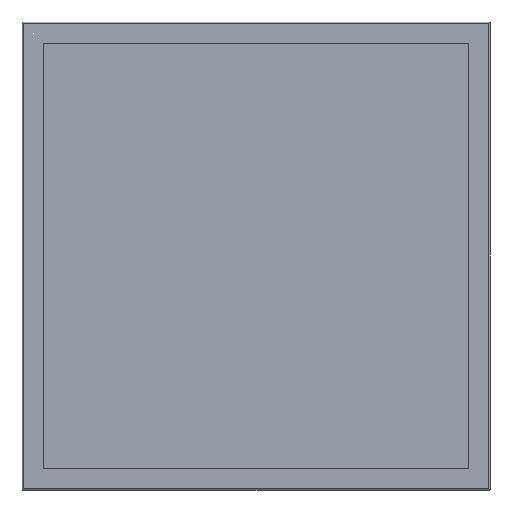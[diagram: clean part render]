
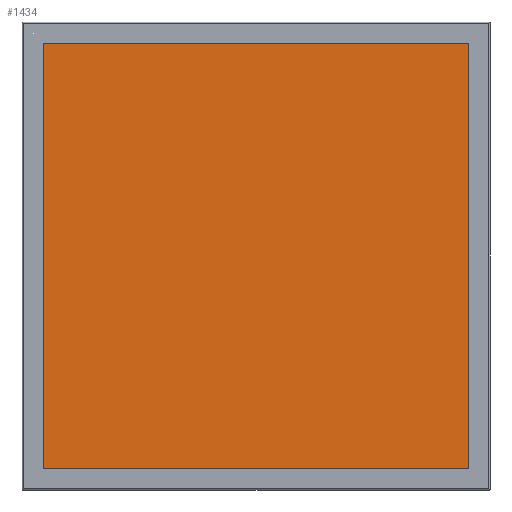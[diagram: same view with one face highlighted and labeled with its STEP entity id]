
A CAD part, front view. The second image highlights one B-rep face of the part: STEP entity #1434.
In plain terms, the highlighted planar face has unit normal (0, -1, 0).
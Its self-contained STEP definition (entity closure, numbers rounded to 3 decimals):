
#1434=ADVANCED_FACE('',(#5899),#5901,.F.);
#5899=FACE_BOUND('',#5900,.T.);
#5900=EDGE_LOOP('',(#7778,#7779,#7780,#7781));
#5901=PLANE('',#5902);
#5902=AXIS2_PLACEMENT_3D('',#5903,#5904,#5905);
#5903=CARTESIAN_POINT('',(0.,0.,0.));
#5904=DIRECTION('',(-0.,1.,0.));
#5905=DIRECTION('',(1.,0.,0.));
#7778=ORIENTED_EDGE('',*,*,#8700,.F.);
#7779=ORIENTED_EDGE('',*,*,#8697,.F.);
#7780=ORIENTED_EDGE('',*,*,#8694,.F.);
#7781=ORIENTED_EDGE('',*,*,#8690,.F.);
#8690=EDGE_CURVE('',#10178,#10179,#10180,.T.);
#8694=EDGE_CURVE('',#10179,#10186,#10187,.T.);
#8697=EDGE_CURVE('',#10186,#10191,#10192,.T.);
#8700=EDGE_CURVE('',#10191,#10178,#10196,.T.);
#10178=VERTEX_POINT('',#13998);
#10179=VERTEX_POINT('',#13999);
#10180=LINE('',#14000,#14001);
#10186=VERTEX_POINT('',#14014);
#10187=LINE('',#14015,#14016);
#10191=VERTEX_POINT('',#14025);
#10192=LINE('',#14026,#14027);
#10196=LINE('',#14036,#14037);
#13998=CARTESIAN_POINT('',(-283.,0.,283.));
#13999=CARTESIAN_POINT('',(283.,0.,283.));
#14000=CARTESIAN_POINT('',(-283.,0.,283.));
#14001=VECTOR('',#14002,1.);
#14002=DIRECTION('',(1.,0.,0.));
#14014=CARTESIAN_POINT('',(283.,0.,-283.));
#14015=CARTESIAN_POINT('',(283.,0.,283.));
#14016=VECTOR('',#14017,1.);
#14017=DIRECTION('',(0.,0.,-1.));
#14025=CARTESIAN_POINT('',(-283.,0.,-283.));
#14026=CARTESIAN_POINT('',(283.,0.,-283.));
#14027=VECTOR('',#14028,1.);
#14028=DIRECTION('',(-1.,0.,0.));
#14036=CARTESIAN_POINT('',(-283.,0.,-283.));
#14037=VECTOR('',#14038,1.);
#14038=DIRECTION('',(0.,0.,1.));
